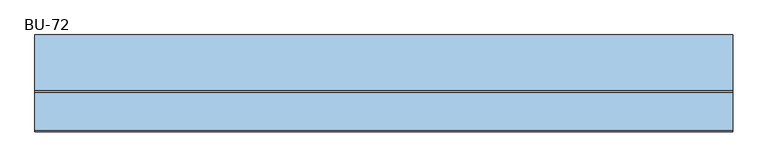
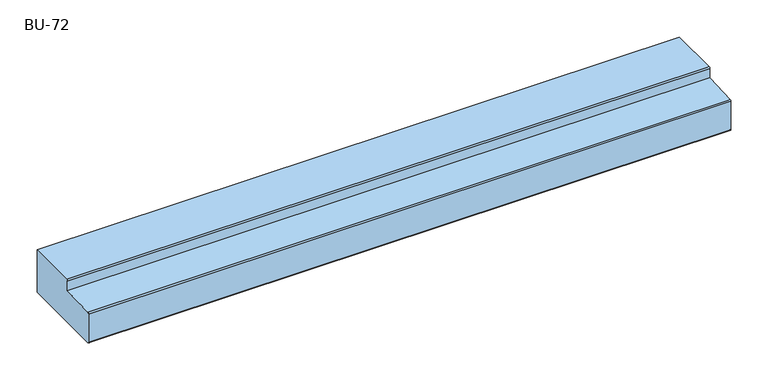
"""IFC4 building model written with IfcOpenShell, lengths in millimetres: window geometry, 30_NS_BU_dorpel : BU-72."""

from ifc_helpers import new_model, si_unit, point, frame, frame_2d, origin, place, context, project, spatial, polyline, circle_curve, trimmed, segment, composite_curve, outline, extrude, source, transform, mapped, element, save


def bu_72_ce7b531b(model_context):
    return source(origin(), model_context, "Body", "SweptSolid", [
        extrude(outline(composite_curve([segment(polyline([(0.0, 70.0), (0.0, 0.0), (-136.9683586, 0.0)]), True, "CONTINUOUS"), segment(trimmed(circle_curve(frame_2d((-136.9683586, 2.0316414)), 2.0316414), [point((-136.9683586, 0.0))], [point((-139.0, 2.0316414))], False, "CARTESIAN"), True, "CONTINUOUS"), segment(polyline([(-139.0, 2.0316414), (-139.0, 48.3195301)]), True, "CONTINUOUS"), segment(trimmed(circle_curve(frame_2d((-137.0, 48.3195301)), 2.0), [point((-139.0, 48.3195301))], [point((-137.0713996, 50.3182552))], False, "CARTESIAN"), True, "CONTINUOUS"), segment(polyline([(-137.0713996, 50.3182552), (-82.0, 52.6427741), (-82.0, 68.0)]), True, "CONTINUOUS"), segment(trimmed(circle_curve(frame_2d((-80.0, 68.0)), 2.0), [point((-82.0, 68.0))], [point((-80.0, 70.0))], False, "CARTESIAN"), True, "CONTINUOUS"), segment(polyline([(-80.0, 70.0), (0.0, 70.0)]), True, "CONTINUOUS")], self_intersect=False)), frame((0.0, 0.0, 0.0), z_axis=(1.0, 0.0, 0.0), x_axis=(0.0, 1.0, 0.0)), (0.0, 0.0, 1.0), 1000.0),
    ])


if __name__ == "__main__":
    model = new_model("IFC4")
    model_context = context("Model", 3, world=origin())
    ifc_project = project(units=[si_unit("LENGTHUNIT", "METRE", prefix="MILLI")], contexts=[model_context])
    site = spatial("IfcSite", under=ifc_project)
    building = spatial("IfcBuilding", under=site)
    placement = place(None, origin())
    bu_72_shape = bu_72_ce7b531b(model_context)
    element("IfcWindow", 1, ObjectType="30_NS_BU_dorpel : BU-72", at=placement, inside=building, context=model_context, shape_type="MappedRepresentation", body=[
        mapped(bu_72_shape, transform((0.0, 0.0, 0.0), x_axis=(1.0, 0.0, 0.0), y_axis=(0.0, 1.0, 0.0), z_axis=(0.0, 0.0, 1.0))),
    ])
    save(model, "model.ifc")
